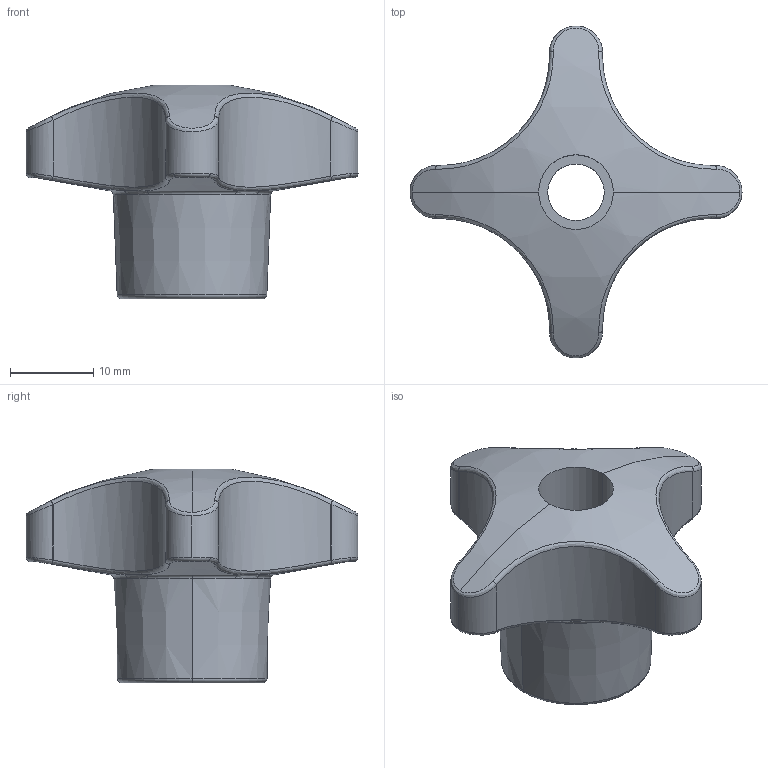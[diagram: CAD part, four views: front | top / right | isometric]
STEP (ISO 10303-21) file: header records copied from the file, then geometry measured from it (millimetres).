
FILE_DESCRIPTION (( 'STEP AP214' ), '1' );
FILE_NAME ('1121 40 401.STEP', '2010-11-26T15:46:06', ( 'Marc' ), ( '' ), 'SwSTEP 2.0', 'SolidWorks 2010', '' );
FILE_SCHEMA (( 'AUTOMOTIVE_DESIGN' ));
Length unit declared in the file: millimetre
Products named in the file (1): 1121 40 401
Bounding box: 40 x 39.99 x 25.74 mm (x, y, z)
Volume: 8815.4 mm3; surface area: 4771.1 mm2
Topology: 2 solids, 2 shells, 81 faces, 197 edges, 119 vertices
Faces by surface type: cylinder 25, bspline 24, torus 12, cone 11, plane 7, sphere 2
Entity records: 7516 total; most frequent: CARTESIAN_POINT 5667, ORIENTED_EDGE 394, DIRECTION 312, EDGE_CURVE 197, AXIS2_PLACEMENT_3D 140, VERTEX_POINT 119, EDGE_LOOP 84, B_SPLINE_CURVE_WITH_KNOTS 83
